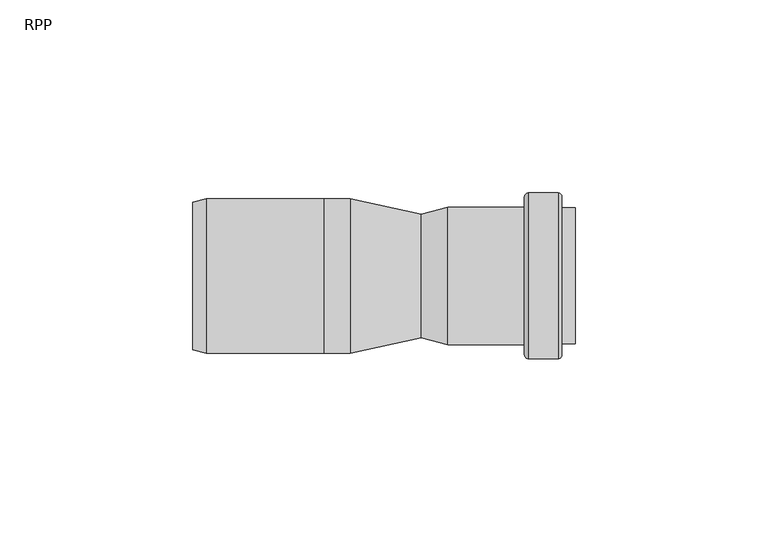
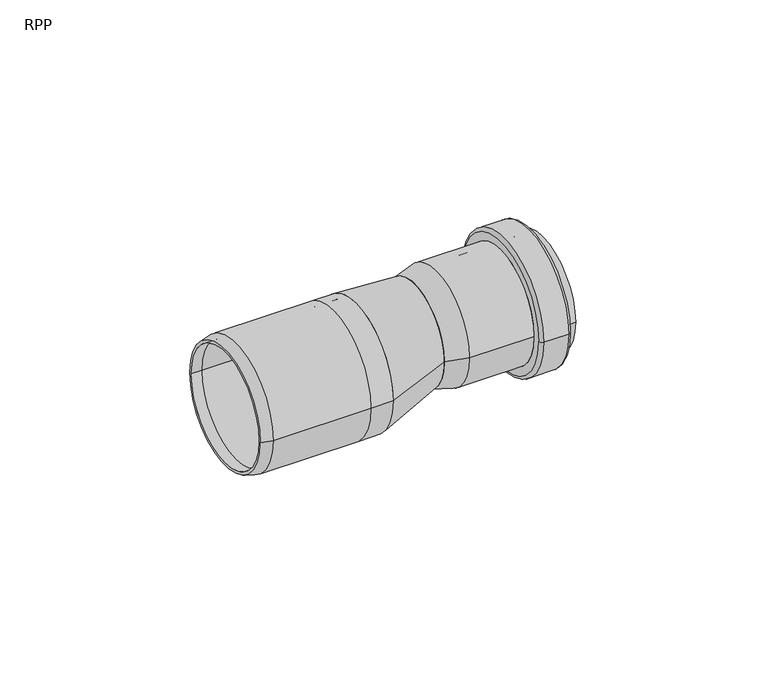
"""IFC4 building model written with IfcOpenShell, lengths in millimetres: pipe fitting geometry, RAUPIANO PLUS Reducer : RPP."""

from ifc_helpers import new_model, si_unit, point, frame, origin, place, context, project, spatial, polyline, circle_curve, ellipse_curve, trimmed, source, transform, mapped, element, save
from ifc_brep_helpers import plane_surface, cylinder_surface, revolved_surface, spline_surface, advanced_brep


def rpp_891da969(model_context):
    return source(origin(), model_context, "Body", "AdvancedBrep", [
        advanced_brep(
        [(35.9, 17.8220545, 4.0), (35.9, -17.8220545, 4.0), (16.0, -17.8220545, 4.0), (16.0, 17.8220545, 4.0), (49.0, 17.6076952, 4.0), (49.0, -17.6076952, 4.0), (45.6, -17.6076952, 4.0), (45.6, 17.6076952, 4.0), (45.6, 16.0220545, 4.0), (45.6, -16.0220545, 4.0), (49.0, -16.0220545, 4.0), (49.0, 16.0220545, 4.0), (16.0, 16.0220545, 4.0), (16.0, -16.0220545, 4.0), (9.2, 14.2, 4.0), (9.2, -14.2, 4.0), (9.2, -16.0, 4.0), (9.2, 16.0, 4.0), (36.9, 21.4720545, 4.0), (36.9, -21.4720545, 4.0), (35.9, -20.4720545, 4.0), (35.9, 20.4720545, 4.0), (44.6, 21.4720545, 4.0), (44.6, -21.4720545, 4.0), (45.6, 20.4720545, 4.0), (45.6, -20.4720545, 4.0)],
        [
            (0, 1, circle_curve(frame((35.9, 0.0, 4.0), z_axis=(-1.0, 0.0, 0.0), x_axis=(0.0, -1.0, 0.0)), 17.8220545)),
            (1, 2),
            (2, 3, circle_curve(frame((16.0, 0.0, 4.0), z_axis=(1.0, 0.0, 0.0), x_axis=(0.0, -1.0, 0.0)), 17.8220545)),
            (3, 0),
            (4, 5, circle_curve(frame((49.0, 0.0, 4.0), z_axis=(-1.0, 0.0, 0.0), x_axis=(0.0, -1.0, 0.0)), 17.6076952)),
            (5, 6),
            (6, 7, circle_curve(frame((45.6, 0.0, 4.0), z_axis=(1.0, 0.0, 0.0), x_axis=(0.0, -1.0, 0.0)), 17.6076952)),
            (7, 4),
            (8, 9, circle_curve(frame((45.6, 0.0, 4.0), z_axis=(-1.0, 0.0, 0.0), x_axis=(0.0, -1.0, 0.0)), 16.0220545)),
            (9, 10),
            (10, 11, circle_curve(frame((49.0, 0.0, 4.0), z_axis=(1.0, 0.0, 0.0), x_axis=(0.0, -1.0, 0.0)), 16.0220545)),
            (11, 8),
            (12, 13, circle_curve(frame((16.0, 0.0, 4.0), z_axis=(-1.0, 0.0, 0.0), x_axis=(0.0, -1.0, 0.0)), 16.0220545)),
            (13, 9),
            (8, 12),
            (14, 15, circle_curve(frame((9.2, 0.0, 4.0), z_axis=(-1.0, 0.0, 0.0), x_axis=(0.0, -1.0, 0.0)), 14.2)),
            (15, 13),
            (12, 14),
            (2, 16),
            (16, 17, circle_curve(frame((9.2, 0.0, 4.0), z_axis=(1.0, 0.0, 0.0), x_axis=(0.0, -1.0, 0.0)), 16.0)),
            (17, 3),
            (1, 0, circle_curve(frame((35.9, 0.0, 4.0), z_axis=(-1.0, 0.0, 0.0), x_axis=(0.0, 1.0, 0.0)), 17.8220545)),
            (3, 2, circle_curve(frame((16.0, 0.0, 4.0), z_axis=(1.0, 0.0, 0.0), x_axis=(0.0, 1.0, 0.0)), 17.8220545)),
            (5, 4, circle_curve(frame((49.0, 0.0, 4.0), z_axis=(-1.0, 0.0, 0.0), x_axis=(0.0, 1.0, 0.0)), 17.6076952)),
            (7, 6, circle_curve(frame((45.6, 0.0, 4.0), z_axis=(1.0, 0.0, 0.0), x_axis=(0.0, 1.0, 0.0)), 17.6076952)),
            (10, 11, circle_curve(frame((49.0, 0.0, 4.0), z_axis=(-1.0, 0.0, 0.0), x_axis=(0.0, 1.0, 0.0)), 16.0220545)),
            (9, 8, circle_curve(frame((45.6, 0.0, 4.0), z_axis=(-1.0, 0.0, 0.0), x_axis=(0.0, 1.0, 0.0)), 16.0220545)),
            (13, 12, circle_curve(frame((16.0, 0.0, 4.0), z_axis=(-1.0, 0.0, 0.0), x_axis=(0.0, 1.0, 0.0)), 16.0220545)),
            (15, 14, circle_curve(frame((9.2, 0.0, 4.0), z_axis=(-1.0, 0.0, 0.0), x_axis=(0.0, 1.0, 0.0)), 14.2)),
            (17, 16, circle_curve(frame((9.2, 0.0, 4.0), z_axis=(1.0, 0.0, 0.0), x_axis=(0.0, 1.0, 0.0)), 16.0)),
            (18, 19, circle_curve(frame((36.9, 0.0, 4.0), z_axis=(-1.0, 0.0, 0.0), x_axis=(0.0, -1.0, 0.0)), 21.4720545)),
            (19, 20, circle_curve(frame((36.9, -20.4720545, 4.0), z_axis=(0.0, 0.0, -1.0), x_axis=(1.0, 0.0, 0.0)), 1.0)),
            (20, 21, circle_curve(frame((35.9, 0.0, 4.0), z_axis=(1.0, 0.0, 0.0), x_axis=(0.0, -1.0, 0.0)), 20.4720545)),
            (21, 18, circle_curve(frame((36.9, 20.4720545, 4.0), z_axis=(0.0, 0.0, -1.0), x_axis=(1.0, 0.0, 0.0)), 1.0)),
            (22, 23, circle_curve(frame((44.6, 0.0, 4.0), z_axis=(-1.0, 0.0, 0.0), x_axis=(0.0, -1.0, 0.0)), 21.4720545)),
            (23, 19),
            (18, 22),
            (24, 25, circle_curve(frame((45.6, 0.0, 4.0), z_axis=(-1.0, 0.0, 0.0), x_axis=(0.0, -1.0, 0.0)), 20.4720545)),
            (25, 23, circle_curve(frame((44.6, -20.4720545, 4.0), z_axis=(0.0, 0.0, -1.0), x_axis=(1.0, 0.0, 0.0)), 1.0)),
            (22, 24, circle_curve(frame((44.6, 20.4720545, 4.0), z_axis=(0.0, 0.0, -1.0), x_axis=(1.0, 0.0, 0.0)), 1.0)),
            (20, 21, circle_curve(frame((35.9, 0.0, 4.0), z_axis=(-1.0, 0.0, 0.0), x_axis=(0.0, 1.0, 0.0)), 20.4720545)),
            (19, 18, circle_curve(frame((36.9, 0.0, 4.0), z_axis=(-1.0, 0.0, 0.0), x_axis=(0.0, 1.0, 0.0)), 21.4720545)),
            (23, 22, circle_curve(frame((44.6, 0.0, 4.0), z_axis=(-1.0, 0.0, 0.0), x_axis=(0.0, 1.0, 0.0)), 21.4720545)),
            (25, 24, circle_curve(frame((45.6, 0.0, 4.0), z_axis=(-1.0, 0.0, 0.0), x_axis=(0.0, 1.0, 0.0)), 20.4720545)),
        ],
        [
            cylinder_surface(frame((0.0, 0.0, 4.0), z_axis=(1.0, 0.0, 0.0), x_axis=(0.0, -1.0, 0.0)), 17.8220545),
            cylinder_surface(frame((0.0, 0.0, 4.0), z_axis=(1.0, 0.0, 0.0), x_axis=(0.0, -1.0, 0.0)), 17.6076952),
            revolved_surface(polyline([(49.0, -16.0220545, 4.0), (45.6, -16.0220545, 4.0)]), (0.0, 0.0, 4.0), (1.0, 0.0, 0.0)),
            revolved_surface(polyline([(45.6, -16.0220545, 4.0), (16.0, -16.0220545, 4.0)]), (0.0, 0.0, 4.0), (1.0, 0.0, 0.0)),
            revolved_surface(polyline([(16.0, -16.0220545, 4.0), (9.2, -14.2, 4.0)]), (0.0, 0.0, 4.0), (1.0, 0.0, 0.0)),
            revolved_surface(polyline([(9.2, -16.0, 4.0), (16.0, -17.8220545, 4.0)]), (0.0, 0.0, 4.0), (1.0, 0.0, 0.0)),
            cylinder_surface(frame((0.0, 0.0, 4.0), z_axis=(1.0, 0.0, 0.0), x_axis=(0.0, 1.0, 0.0)), 17.8220545),
            cylinder_surface(frame((0.0, 0.0, 4.0), z_axis=(1.0, 0.0, 0.0), x_axis=(0.0, 1.0, 0.0)), 17.6076952),
            plane_surface(frame((49.0, 0.0, 4.0), z_axis=(1.0, 0.0, 0.0), x_axis=(0.0, 1.0, 0.0))),
            revolved_surface(polyline([(49.0, 16.0220545, 4.0), (45.6, 16.0220545, 4.0)]), (0.0, 0.0, 4.0), (1.0, 0.0, 0.0)),
            revolved_surface(polyline([(45.6, 16.0220545, 4.0), (16.0, 16.0220545, 4.0)]), (0.0, 0.0, 4.0), (1.0, 0.0, 0.0)),
            revolved_surface(polyline([(16.0, 16.0220545, 4.0), (9.2, 14.2, 4.0)]), (0.0, 0.0, 4.0), (1.0, 0.0, 0.0)),
            revolved_surface(polyline([(9.2, 16.0, 4.0), (16.0, 17.8220545, 4.0)]), (0.0, 0.0, 4.0), (1.0, 0.0, 0.0)),
            revolved_surface(trimmed(ellipse_curve(frame((36.9, -20.4720545, 4.0), z_axis=(0.0, 0.0, 1.0), x_axis=(1.0, 0.0, 0.0)), 1.0, 1.0), [point((35.9, -20.4720545, 4.0))], [point((36.9, -21.4720545, 4.0))], True, "CARTESIAN"), (0.0, 0.0, 4.0), (1.0, 0.0, 0.0)),
            cylinder_surface(frame((0.0, 0.0, 4.0), z_axis=(1.0, 0.0, 0.0), x_axis=(0.0, -1.0, 0.0)), 21.4720545),
            revolved_surface(trimmed(ellipse_curve(frame((44.6, -20.4720545, 4.0), z_axis=(0.0, 0.0, 1.0), x_axis=(1.0, 0.0, 0.0)), 1.0, 1.0), [point((44.6, -21.4720545, 4.0))], [point((45.6, -20.4720545, 4.0))], True, "CARTESIAN"), (0.0, 0.0, 4.0), (1.0, 0.0, 0.0)),
            plane_surface(frame((35.9, 0.0, 4.0), z_axis=(-1.0, 0.0, 0.0), x_axis=(0.0, 1.0, 0.0))),
            revolved_surface(trimmed(ellipse_curve(frame((36.9, 20.4720545, 4.0), z_axis=(0.0, 0.0, -1.0), x_axis=(1.0, 0.0, 0.0)), 1.0, 1.0), [point((35.9, 20.4720545, 4.0))], [point((36.9, 21.4720545, 4.0))], True, "CARTESIAN"), (0.0, 0.0, 4.0), (1.0, 0.0, 0.0)),
            cylinder_surface(frame((0.0, 0.0, 4.0), z_axis=(1.0, 0.0, 0.0), x_axis=(0.0, 1.0, 0.0)), 21.4720545),
            revolved_surface(trimmed(ellipse_curve(frame((44.6, 20.4720545, 4.0), z_axis=(0.0, 0.0, -1.0), x_axis=(1.0, 0.0, 0.0)), 1.0, 1.0), [point((44.6, 21.4720545, 4.0))], [point((45.6, 20.4720545, 4.0))], True, "CARTESIAN"), (0.0, 0.0, 4.0), (1.0, 0.0, 0.0)),
            plane_surface(frame((45.6, 0.0, 4.0), z_axis=(1.0, 0.0, 0.0), x_axis=(0.0, 1.0, 0.0))),
            plane_surface(frame((9.2, 0.0, 4.0), z_axis=(-1.0, 0.0, 0.0), x_axis=(0.0, 1.0, 0.0))),
        ],
        [
            (0, [[1, 2, 3, 4]]),
            (1, [[5, 6, 7, 8]]),
            (2, [[9, 10, 11, 12]]),
            (3, [[13, 14, -9, 15]]),
            (4, [[16, 17, -13, 18]]),
            (5, [[-3, 19, 20, 21]]),
            (6, [[22, -4, 23, -2]]),
            (7, [[24, -8, 25, -6]]),
            (8, [[-24, -5], [26, -11]]),
            (9, [[27, -12, -26, -10]]),
            (10, [[28, -15, -27, -14]]),
            (11, [[29, -18, -28, -17]]),
            (12, [[-23, -21, 30, -19]]),
            (13, [[31, 32, 33, 34]]),
            (14, [[35, 36, -31, 37]]),
            (15, [[38, 39, -35, 40]]),
            (16, [[41, -33], [-22, -1]]),
            (17, [[42, -34, -41, -32]]),
            (18, [[43, -37, -42, -36]]),
            (19, [[44, -40, -43, -39]]),
            (20, [[-44, -38], [-25, -7]]),
            (21, [[-30, -20], [-29, -16]]),
        ],
    ),
        advanced_brep(
        [(-9.2, 20.0, 0.0), (-9.2, -20.0, 0.0), (-16.0, -20.0, 0.0), (-16.0, 20.0, 0.0), (-16.0, 18.2, 0.0), (-16.0, -18.2, 0.0), (-9.2, -18.2, 0.0), (-9.2, 18.2, 0.0), (-46.6, 18.2, 0.0), (-46.6, -18.2, 0.0), (-50.0, 18.2, 0.0), (-50.0, -18.2, 0.0), (-46.6, 20.0, 0.0), (-46.6, -20.0, 0.0), (-50.0, -19.0889727, 0.0), (-50.0, 19.0889727, 0.0)],
        [
            (0, 1, circle_curve(frame((-9.2, 0.0, 0.0), z_axis=(-1.0, 0.0, 0.0), x_axis=(0.0, -1.0, 0.0)), 20.0)),
            (1, 2),
            (2, 3, circle_curve(frame((-16.0, 0.0, 0.0), z_axis=(1.0, 0.0, 0.0), x_axis=(0.0, -1.0, 0.0)), 20.0)),
            (3, 0),
            (4, 5, circle_curve(frame((-16.0, 0.0, 0.0), z_axis=(-1.0, 0.0, 0.0), x_axis=(0.0, -1.0, 0.0)), 18.2)),
            (5, 6),
            (6, 7, circle_curve(frame((-9.2, 0.0, 0.0), z_axis=(1.0, 0.0, 0.0), x_axis=(0.0, -1.0, 0.0)), 18.2)),
            (7, 4),
            (8, 9, circle_curve(frame((-46.6, 0.0, 0.0), z_axis=(-1.0, 0.0, 0.0), x_axis=(0.0, -1.0, 0.0)), 18.2)),
            (9, 5),
            (4, 8),
            (10, 11, circle_curve(frame((-50.0, 0.0, 0.0), z_axis=(-1.0, 0.0, 0.0), x_axis=(0.0, -1.0, 0.0)), 18.2)),
            (11, 9),
            (8, 10),
            (12, 13, circle_curve(frame((-46.6, 0.0, 0.0), z_axis=(-1.0, 0.0, 0.0), x_axis=(0.0, -1.0, 0.0)), 20.0)),
            (13, 14),
            (14, 15, circle_curve(frame((-50.0, 0.0, 0.0), z_axis=(1.0, 0.0, 0.0), x_axis=(0.0, -1.0, 0.0)), 19.0889727)),
            (15, 12),
            (2, 13),
            (12, 3),
            (1, 0, circle_curve(frame((-9.2, 0.0, 0.0), z_axis=(-1.0, 0.0, 0.0), x_axis=(0.0, 1.0, 0.0)), 20.0)),
            (3, 2, circle_curve(frame((-16.0, 0.0, 0.0), z_axis=(1.0, 0.0, 0.0), x_axis=(0.0, 1.0, 0.0)), 20.0)),
            (6, 7, circle_curve(frame((-9.2, 0.0, 0.0), z_axis=(-1.0, 0.0, 0.0), x_axis=(0.0, 1.0, 0.0)), 18.2)),
            (5, 4, circle_curve(frame((-16.0, 0.0, 0.0), z_axis=(-1.0, 0.0, 0.0), x_axis=(0.0, 1.0, 0.0)), 18.2)),
            (9, 8, circle_curve(frame((-46.6, 0.0, 0.0), z_axis=(-1.0, 0.0, 0.0), x_axis=(0.0, 1.0, 0.0)), 18.2)),
            (11, 10, circle_curve(frame((-50.0, 0.0, 0.0), z_axis=(-1.0, 0.0, 0.0), x_axis=(0.0, 1.0, 0.0)), 18.2)),
            (14, 15, circle_curve(frame((-50.0, 0.0, 0.0), z_axis=(-1.0, 0.0, 0.0), x_axis=(0.0, 1.0, 0.0)), 19.0889727)),
            (13, 12, circle_curve(frame((-46.6, 0.0, 0.0), z_axis=(-1.0, 0.0, 0.0), x_axis=(0.0, 1.0, 0.0)), 20.0)),
        ],
        [
            cylinder_surface(frame((0.0, 0.0, 0.0), z_axis=(1.0, 0.0, 0.0), x_axis=(0.0, -1.0, 0.0)), 20.0),
            revolved_surface(polyline([(-9.2, -18.2, 0.0), (-16.0, -18.2, 0.0)]), (0.0, 0.0, 0.0), (1.0, 0.0, 0.0)),
            revolved_surface(polyline([(-16.0, -18.2, 0.0), (-46.6, -18.2, 0.0)]), (0.0, 0.0, 0.0), (1.0, 0.0, 0.0)),
            revolved_surface(polyline([(-46.6, -18.2, 0.0), (-50.0, -18.2, 0.0)]), (0.0, 0.0, 0.0), (1.0, 0.0, 0.0)),
            revolved_surface(polyline([(-50.0, -19.0889727, 0.0), (-46.6, -20.0, 0.0)]), (0.0, 0.0, 0.0), (1.0, 0.0, 0.0)),
            cylinder_surface(frame((0.0, 0.0, 0.0), z_axis=(1.0, 0.0, 0.0), x_axis=(0.0, 1.0, 0.0)), 20.0),
            plane_surface(frame((-9.2, 0.0, 0.0), z_axis=(1.0, 0.0, 0.0), x_axis=(0.0, 1.0, 0.0))),
            revolved_surface(polyline([(-9.2, 18.2, 0.0), (-16.0, 18.2, 0.0)]), (0.0, 0.0, 0.0), (1.0, 0.0, 0.0)),
            revolved_surface(polyline([(-16.0, 18.2, 0.0), (-46.6, 18.2, 0.0)]), (0.0, 0.0, 0.0), (1.0, 0.0, 0.0)),
            revolved_surface(polyline([(-46.6, 18.2, 0.0), (-50.0, 18.2, 0.0)]), (0.0, 0.0, 0.0), (1.0, 0.0, 0.0)),
            plane_surface(frame((-50.0, 0.0, 0.0), z_axis=(-1.0, 0.0, 0.0), x_axis=(0.0, 1.0, 0.0))),
            revolved_surface(polyline([(-50.0, 19.0889727, 0.0), (-46.6, 20.0, 0.0)]), (0.0, 0.0, 0.0), (1.0, 0.0, 0.0)),
        ],
        [
            (0, [[1, 2, 3, 4]]),
            (1, [[5, 6, 7, 8]]),
            (2, [[9, 10, -5, 11]]),
            (3, [[12, 13, -9, 14]]),
            (4, [[15, 16, 17, 18]]),
            (0, [[-3, 19, -15, 20]]),
            (5, [[21, -4, 22, -2]]),
            (6, [[-21, -1], [23, -7]]),
            (7, [[24, -8, -23, -6]]),
            (8, [[25, -11, -24, -10]]),
            (9, [[26, -14, -25, -13]]),
            (10, [[27, -17], [-26, -12]]),
            (11, [[28, -18, -27, -16]]),
            (5, [[-22, -20, -28, -19]]),
        ],
    ),
        advanced_brep(
        [(9.2, -16.0, 4.0), (9.2, 16.0, 4.0), (-9.2, -20.0, 0.0), (-9.2, 20.0, 0.0)],
        [
            (0, 1, circle_curve(frame((9.2, 0.0, 4.0), z_axis=(1.0, 0.0, 0.0), x_axis=(0.0, 1.0, 0.0)), 16.0)),
            (1, 0, circle_curve(frame((9.2, 0.0, 4.0), z_axis=(1.0, 0.0, 0.0), x_axis=(0.0, 1.0, 0.0)), 16.0)),
            (2, 3, circle_curve(frame((-9.2, 0.0, 0.0), z_axis=(-1.0, 0.0, 0.0), x_axis=(0.0, 1.0, 0.0)), 20.0)),
            (3, 2, circle_curve(frame((-9.2, 0.0, 0.0), z_axis=(-1.0, 0.0, 0.0), x_axis=(0.0, 1.0, 0.0)), 20.0)),
            (3, 1),
            (0, 2),
        ],
        [
            plane_surface(frame((9.2, 0.0, 4.0), z_axis=(1.0, 0.0, 0.0), x_axis=(0.0, 0.0, -1.0))),
            plane_surface(frame((-9.2, 0.0, 0.0), z_axis=(-1.0, 0.0, 0.0), x_axis=(0.0, 0.0, -1.0))),
            spline_surface(2, 1, [[(-9.2, -20.0, 0.0), (9.2, -16.0, 4.0)], [(-9.2, -20.0, -20.0), (9.2, -16.0, -12.0)], [(-9.2, 0.0, -20.0), (9.2, 0.0, -12.0)], [(-9.2, 20.0, -20.0), (9.2, 16.0, -12.0)], [(-9.2, 20.0, 0.0), (9.2, 16.0, 4.0)]], [3, 2, 3], [2, 2], [0.0, 1.0, 2.0], [0.0, 1.0], weights=[[1.0, 1.0], [0.7071067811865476, 0.7071067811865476], [1.0, 1.0], [0.7071067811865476, 0.7071067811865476], [1.0, 1.0]]),
            spline_surface(2, 1, [[(-9.2, 20.0, 0.0), (9.2, 16.0, 4.0)], [(-9.2, 20.0, 20.0), (9.2, 16.0, 20.0)], [(-9.2, 0.0, 20.0), (9.2, 0.0, 20.0)], [(-9.2, -20.0, 20.0), (9.2, -16.0, 20.0)], [(-9.2, -20.0, 0.0), (9.2, -16.0, 4.0)]], [3, 2, 3], [2, 2], [0.0, 1.0, 2.0], [0.0, 1.0], weights=[[1.0, 1.0], [0.7071067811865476, 0.7071067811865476], [1.0, 1.0], [0.7071067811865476, 0.7071067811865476], [1.0, 1.0]]),
        ],
        [
            (0, [[1, 2]]),
            (1, [[3, 4]]),
            (2, [[-4, 5, -1, 6]]),
            (3, [[-3, -6, -2, -5]]),
        ],
    ),
    ])


if __name__ == "__main__":
    model = new_model("IFC4")
    model_context = context("Model", 3, world=origin())
    ifc_project = project(units=[si_unit("LENGTHUNIT", "METRE", prefix="MILLI")], contexts=[model_context])
    site = spatial("IfcSite", under=ifc_project)
    building = spatial("IfcBuilding", under=site)
    placement = place(None, origin())
    rpp_shape = rpp_891da969(model_context)
    element("IfcPipeFitting", 1, ObjectType="RAUPIANO PLUS Reducer : RPP", at=placement, inside=building, context=model_context, shape_type="MappedRepresentation", body=[
        mapped(rpp_shape, transform((0.0, 0.0, 0.0), x_axis=(1.0, 0.0, 0.0), y_axis=(0.0, 1.0, 0.0), z_axis=(0.0, 0.0, 1.0))),
    ])
    save(model, "model.ifc")
